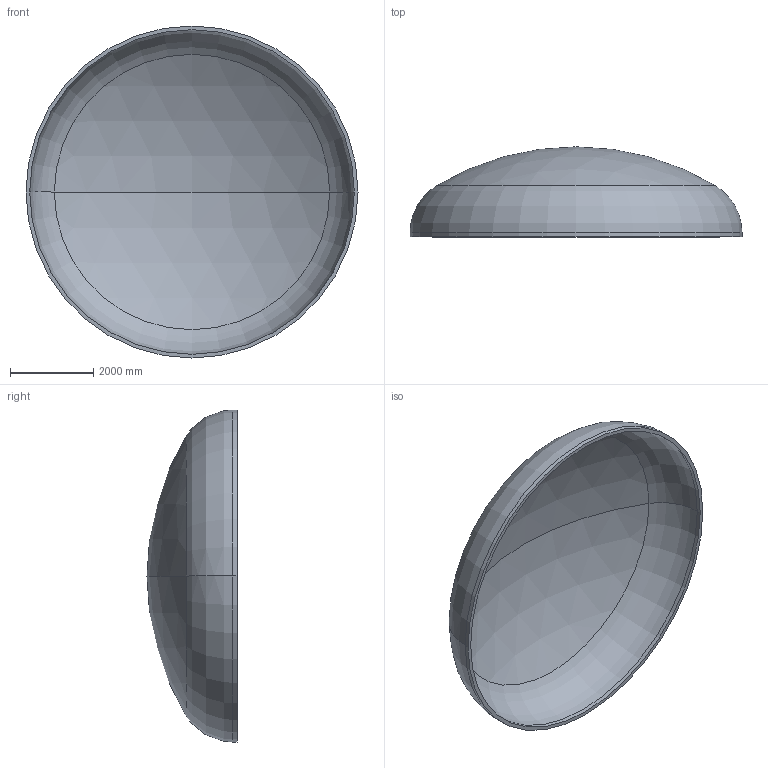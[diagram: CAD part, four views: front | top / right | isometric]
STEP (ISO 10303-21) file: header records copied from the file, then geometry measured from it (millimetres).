
FILE_DESCRIPTION (( 'STEP AP203' ), '1' );
FILE_NAME ('DIN 28013 Korbbogenform_-_Boden DIN 28013 - 8000 x 100 - I - s=90.step', '2016-07-04T11:04:34', ( '' ), ( '' ), 'SwSTEP 2.0', 'SolidWorks 2013', '' );
FILE_SCHEMA (( 'CONFIG_CONTROL_DESIGN' ));
Length unit declared in the file: millimetre
Products named in the file (1): DIN 28013 Korbbogenform_-_Boden DIN 28013 - 8000 x 100 - I - s=90
Bounding box: 8000 x 2168.86 x 8000 mm (x, y, z)
Volume: 6394688697 mm3; surface area: 144357602.5 mm2
Topology: 1 solids, 1 shells, 13 faces, 24 edges, 14 vertices
Faces by surface type: torus 4, cylinder 4, sphere 4, plane 1
Entity records: 407 total; most frequent: DIRECTION 72, CARTESIAN_POINT 52, ORIENTED_EDGE 48, AXIS2_PLACEMENT_3D 34, EDGE_CURVE 24, CIRCLE 20, EDGE_LOOP 14, VERTEX_POINT 14
